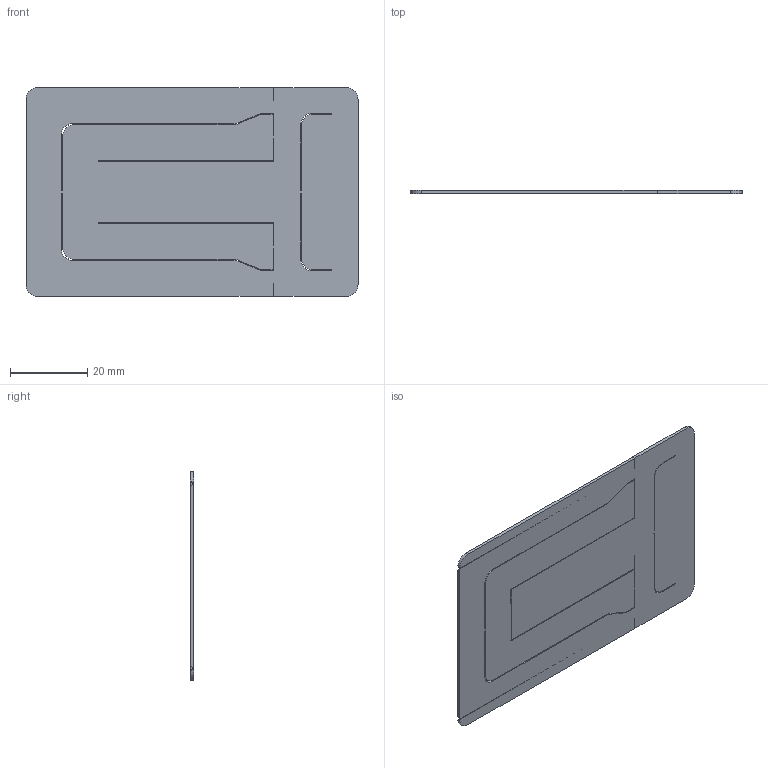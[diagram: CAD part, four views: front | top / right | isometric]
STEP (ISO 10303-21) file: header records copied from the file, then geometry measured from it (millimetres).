
FILE_DESCRIPTION(/* description */ (''),/* implementation_level */ '2;1');
FILE_NAME(/* name */ 'C:/Users/jiank/Downloads/Thin Stand v14.step',/* time_stamp */ '2022-07-04T10:32:06-04:00',/* author */ (''),/* organization */ (''),/* preprocessor_version */ 'ST-DEVELOPER v19',/* originating_system */ 'Autodesk Translation Framework v11.7.0.108',/* authorisation */ '');
FILE_SCHEMA (('AUTOMOTIVE_DESIGN { 1 0 10303 214 3 1 1 }'));
Length unit declared in the file: millimetre
Products named in the file (1): Thin Stand
Bounding box: 86 x 0.8 x 54 mm (x, y, z)
Volume: 3511.2 mm3; surface area: 10008.4 mm2
Topology: 1 solids, 1 shells, 192 faces, 560 edges, 368 vertices
Faces by surface type: plane 176, cylinder 16
Entity records: 6289 total; most frequent: CARTESIAN_POINT 1121, ORIENTED_EDGE 1120, DIRECTION 982, EDGE_CURVE 560, LINE 524, VECTOR 524, VERTEX_POINT 368, AXIS2_PLACEMENT_3D 229
